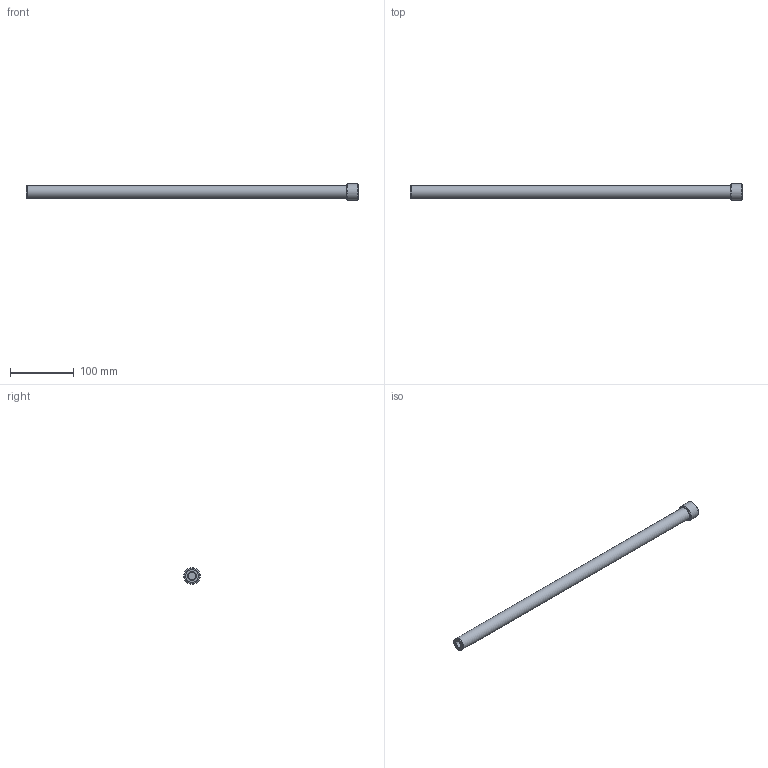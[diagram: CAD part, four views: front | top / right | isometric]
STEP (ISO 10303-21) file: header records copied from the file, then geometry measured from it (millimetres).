
FILE_DESCRIPTION( ( 'STEP AP203' ), '1' );
FILE_NAME( 'C:/Temp/Ganter_Step_05_03_2020/data/3_5/gn880_1/gn880_1_ans_abl/gn_880_1_a/Connector piece with drain hose GN 880.1-22-A-500-T.stp', '2020-03-12T13:42:27', ( 'License CC BY-ND 4.0' ), ( 'CADENAS' ), ' ', 'PARTsolutions', ' ' );
FILE_SCHEMA( ( 'CONFIG_CONTROL_DESIGN' ) );
Length unit declared in the file: millimetre
Products named in the file (5): Connector piece with drain hose GN 880.1-22-A-500-T; _Anschlussstueck mit Ablassschlauch GN 880.1-22-A-500-T_a; _Anschlussstueck mit Ablassschlauch GN 880.1-22-A-500-T_s; _Anschlussstueck mit Ablassschlauch GN 880.1-22-A-500-T_dk; _Anschlussstueck mit Ablassschlauch GN 880.1-22-A-500-T_dk2
Assembly tree (4 placements, depth 2):
  Connector piece with drain hose GN 880.1-22-A-500-T
    _Anschlussstueck mit Ablassschlauch GN 880.1-22-A-500-T_a
    _Anschlussstueck mit Ablassschlauch GN 880.1-22-A-500-T_s
    _Anschlussstueck mit Ablassschlauch GN 880.1-22-A-500-T_dk
    _Anschlussstueck mit Ablassschlauch GN 880.1-22-A-500-T_dk2
Bounding box: 520 x 26 x 26 mm (x, y, z)
Volume: 89613.8 mm3; surface area: 62272.8 mm2
Topology: 4 solids, 4 shells, 44 faces, 66 edges, 42 vertices
Faces by surface type: plane 20, cylinder 15, cone 6, torus 3
Full cylindrical faces by diameter (mm): 8.5 x1, 9.5 x1, 10.5 x2, 12 x1, 14 x2, 15 x3, 20 x3, 20.376 x1, 26 x1
Entity records: 1042 total; most frequent: DIRECTION 182, CARTESIAN_POINT 134, AXIS2_PLACEMENT_3D 91, EDGE_LOOP 84, ORIENTED_EDGE 84, FACE_OUTER_BOUND 62, ADVANCED_FACE 44, VERTEX_POINT 43
